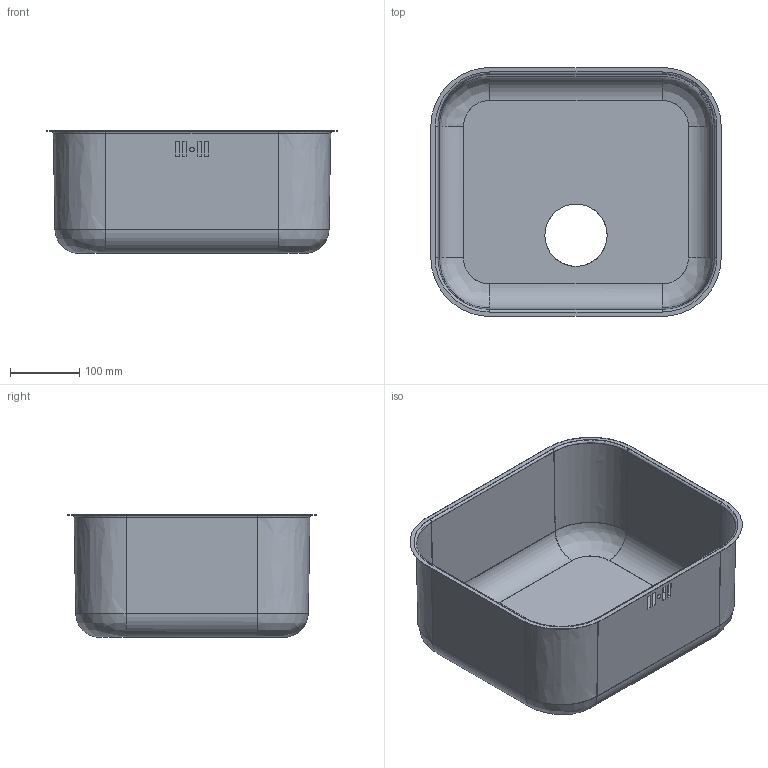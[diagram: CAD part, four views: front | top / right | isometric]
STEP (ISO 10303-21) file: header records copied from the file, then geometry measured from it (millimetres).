
FILE_DESCRIPTION((''),'1');
FILE_NAME('C:/Users/linop/Desktop/UM34.stp','2018-02-26T08:52:06',(''),(''),'Spatial Interop R20 SP1','Kubotek KeyCreator V9.0.3 (16864)',' ');
FILE_SCHEMA(('CONFIG_CONTROL_DESIGN'));
Length unit declared in the file: millimetre
Products named in the file (1): 1
Bounding box: 420 x 360 x 177.6 mm (x, y, z)
Volume: 209984.1 mm3; surface area: 701101.9 mm2
Topology: 1 solids, 1 shells, 97 faces, 250 edges, 157 vertices
Faces by surface type: bspline 44, plane 32, cylinder 21
Full cylindrical faces by diameter (mm): 90 x1
Entity records: 9569 total; most frequent: CARTESIAN_POINT 7458, ORIENTED_EDGE 498, DIRECTION 287, EDGE_CURVE 249, VERTEX_POINT 157, LINE 123, VECTOR 123, EDGE_LOOP 112
